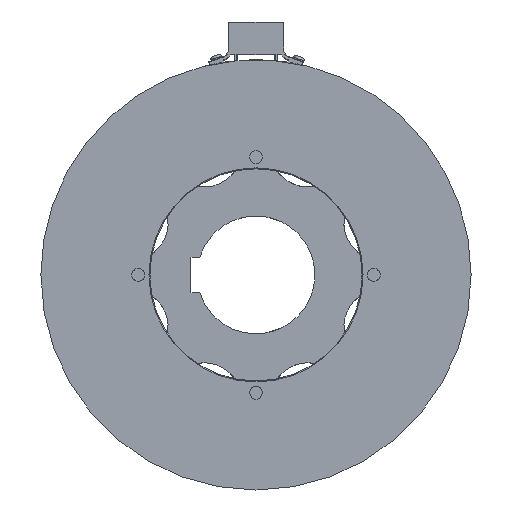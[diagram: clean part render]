
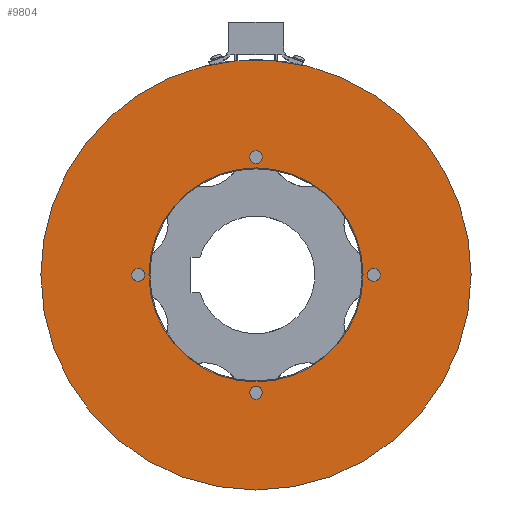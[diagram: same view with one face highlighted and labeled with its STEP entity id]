
A CAD part, left-side view. The second image highlights one B-rep face of the part: STEP entity #9804.
In plain terms, the highlighted planar face has unit normal (-1, 0, 0).
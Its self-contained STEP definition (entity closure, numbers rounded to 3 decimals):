
#151=PLANE('',#10770);
#333=FACE_BOUND('',#1146,.T.);
#334=FACE_BOUND('',#1147,.T.);
#335=FACE_BOUND('',#1148,.T.);
#336=FACE_BOUND('',#1149,.T.);
#337=FACE_BOUND('',#1150,.T.);
#599=FACE_OUTER_BOUND('',#1145,.T.);
#1145=EDGE_LOOP('',(#6967,#6968,#6969));
#1146=EDGE_LOOP('',(#6970,#6971));
#1147=EDGE_LOOP('',(#6972,#6973));
#1148=EDGE_LOOP('',(#6974,#6975));
#1149=EDGE_LOOP('',(#6976,#6977));
#1150=EDGE_LOOP('',(#6978));
#1553=CIRCLE('',#10186,109.5);
#1554=CIRCLE('',#10187,109.5);
#1971=CIRCLE('',#10741,54.5);
#1975=CIRCLE('',#10750,3.25);
#1976=CIRCLE('',#10751,3.25);
#1977=CIRCLE('',#10753,3.25);
#1978=CIRCLE('',#10754,3.25);
#1979=CIRCLE('',#10756,3.25);
#1980=CIRCLE('',#10757,3.25);
#1981=CIRCLE('',#10759,3.25);
#1982=CIRCLE('',#10760,3.25);
#1990=CIRCLE('',#10771,109.5);
#3460=VERTEX_POINT('',#15008);
#3465=VERTEX_POINT('',#15018);
#3466=VERTEX_POINT('',#15020);
#3902=VERTEX_POINT('',#16559);
#3906=VERTEX_POINT('',#16655);
#3907=VERTEX_POINT('',#16656);
#3908=VERTEX_POINT('',#16661);
#3909=VERTEX_POINT('',#16662);
#3910=VERTEX_POINT('',#16667);
#3911=VERTEX_POINT('',#16668);
#3912=VERTEX_POINT('',#16673);
#3913=VERTEX_POINT('',#16674);
#4430=EDGE_CURVE('',#3466,#3465,#1553,.T.);
#4431=EDGE_CURVE('',#3460,#3466,#1554,.T.);
#5020=EDGE_CURVE('',#3902,#3902,#1971,.T.);
#5030=EDGE_CURVE('',#3906,#3907,#1975,.T.);
#5031=EDGE_CURVE('',#3907,#3906,#1976,.T.);
#5033=EDGE_CURVE('',#3908,#3909,#1977,.T.);
#5034=EDGE_CURVE('',#3909,#3908,#1978,.T.);
#5036=EDGE_CURVE('',#3910,#3911,#1979,.T.);
#5037=EDGE_CURVE('',#3911,#3910,#1980,.T.);
#5039=EDGE_CURVE('',#3912,#3913,#1981,.T.);
#5040=EDGE_CURVE('',#3913,#3912,#1982,.T.);
#5051=EDGE_CURVE('',#3465,#3460,#1990,.T.);
#6967=ORIENTED_EDGE('',*,*,#4430,.T.);
#6968=ORIENTED_EDGE('',*,*,#5051,.T.);
#6969=ORIENTED_EDGE('',*,*,#4431,.T.);
#6970=ORIENTED_EDGE('',*,*,#5039,.T.);
#6971=ORIENTED_EDGE('',*,*,#5040,.T.);
#6972=ORIENTED_EDGE('',*,*,#5036,.T.);
#6973=ORIENTED_EDGE('',*,*,#5037,.T.);
#6974=ORIENTED_EDGE('',*,*,#5033,.T.);
#6975=ORIENTED_EDGE('',*,*,#5034,.T.);
#6976=ORIENTED_EDGE('',*,*,#5030,.T.);
#6977=ORIENTED_EDGE('',*,*,#5031,.T.);
#6978=ORIENTED_EDGE('',*,*,#5020,.F.);
#9804=ADVANCED_FACE('',(#599,#333,#334,#335,#336,#337),#151,.T.);
#10186=AXIS2_PLACEMENT_3D('',#15021,#11640,#11641);
#10187=AXIS2_PLACEMENT_3D('',#15022,#11642,#11643);
#10741=AXIS2_PLACEMENT_3D('',#16561,#12878,#12879);
#10750=AXIS2_PLACEMENT_3D('',#16657,#12897,#12898);
#10751=AXIS2_PLACEMENT_3D('',#16658,#12899,#12900);
#10753=AXIS2_PLACEMENT_3D('',#16663,#12904,#12905);
#10754=AXIS2_PLACEMENT_3D('',#16664,#12906,#12907);
#10756=AXIS2_PLACEMENT_3D('',#16669,#12911,#12912);
#10757=AXIS2_PLACEMENT_3D('',#16670,#12913,#12914);
#10759=AXIS2_PLACEMENT_3D('',#16675,#12918,#12919);
#10760=AXIS2_PLACEMENT_3D('',#16676,#12920,#12921);
#10770=AXIS2_PLACEMENT_3D('',#16695,#12943,#12944);
#10771=AXIS2_PLACEMENT_3D('',#16696,#12945,#12946);
#11640=DIRECTION('center_axis',(-1.,0.,0.));
#11641=DIRECTION('ref_axis',(0.,1.,0.));
#11642=DIRECTION('center_axis',(-1.,0.,0.));
#11643=DIRECTION('ref_axis',(0.,1.,0.));
#12878=DIRECTION('center_axis',(-1.,0.,0.));
#12879=DIRECTION('ref_axis',(0.,-1.,0.));
#12897=DIRECTION('center_axis',(1.,0.,0.));
#12898=DIRECTION('ref_axis',(0.,0.,
1.));
#12899=DIRECTION('center_axis',(1.,0.,0.));
#12900=DIRECTION('ref_axis',(0.,0.,
1.));
#12904=DIRECTION('center_axis',(1.,0.,0.));
#12905=DIRECTION('ref_axis',(0.,0.,
1.));
#12906=DIRECTION('center_axis',(1.,0.,0.));
#12907=DIRECTION('ref_axis',(0.,0.,
1.));
#12911=DIRECTION('center_axis',(1.,0.,0.));
#12912=DIRECTION('ref_axis',(0.,0.,
1.));
#12913=DIRECTION('center_axis',(1.,0.,0.));
#12914=DIRECTION('ref_axis',(0.,0.,
1.));
#12918=DIRECTION('center_axis',(1.,0.,0.));
#12919=DIRECTION('ref_axis',(0.,0.,
1.));
#12920=DIRECTION('center_axis',(1.,0.,0.));
#12921=DIRECTION('ref_axis',(0.,0.,
1.));
#12943=DIRECTION('center_axis',(-1.,0.,0.));
#12944=DIRECTION('ref_axis',(0.,0.,
1.));
#12945=DIRECTION('center_axis',(-1.,0.,0.));
#12946=DIRECTION('ref_axis',(0.,1.,0.));
#15008=CARTESIAN_POINT('',(-18.,9.682,109.071));
#15018=CARTESIAN_POINT('',(-18.,-109.5,0.));
#15020=CARTESIAN_POINT('',(-18.,109.5,0.));
#15021=CARTESIAN_POINT('Origin',(-18.,0.,0.));
#15022=CARTESIAN_POINT('Origin',(-18.,0.,0.));
#16559=CARTESIAN_POINT('',(-18.,54.5,0.));
#16561=CARTESIAN_POINT('Origin',(-18.,0.,0.));
#16655=CARTESIAN_POINT('',(-18.,-60.,3.25));
#16656=CARTESIAN_POINT('',(-18.,-60.,-3.25));
#16657=CARTESIAN_POINT('Origin',(-18.,-60.,0.));
#16658=CARTESIAN_POINT('Origin',(-18.,-60.,0.));
#16661=CARTESIAN_POINT('',(-18.,60.,3.25));
#16662=CARTESIAN_POINT('',(-18.,60.,-3.25));
#16663=CARTESIAN_POINT('Origin',(-18.,60.,0.));
#16664=CARTESIAN_POINT('Origin',(-18.,60.,0.));
#16667=CARTESIAN_POINT('',(-18.,0.,63.25));
#16668=CARTESIAN_POINT('',(-18.,0.,56.75));
#16669=CARTESIAN_POINT('Origin',(-18.,0.,60.));
#16670=CARTESIAN_POINT('Origin',(-18.,0.,60.));
#16673=CARTESIAN_POINT('',(-18.,0.,-56.75));
#16674=CARTESIAN_POINT('',(-18.,0.,-63.25));
#16675=CARTESIAN_POINT('Origin',(-18.,0.,-60.));
#16676=CARTESIAN_POINT('Origin',(-18.,0.,-60.));
#16695=CARTESIAN_POINT('Origin',(-18.,81.75,0.));
#16696=CARTESIAN_POINT('Origin',(-18.,0.,0.));
